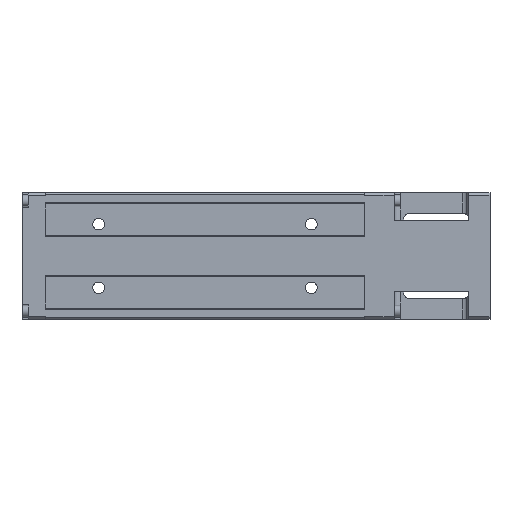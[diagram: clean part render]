
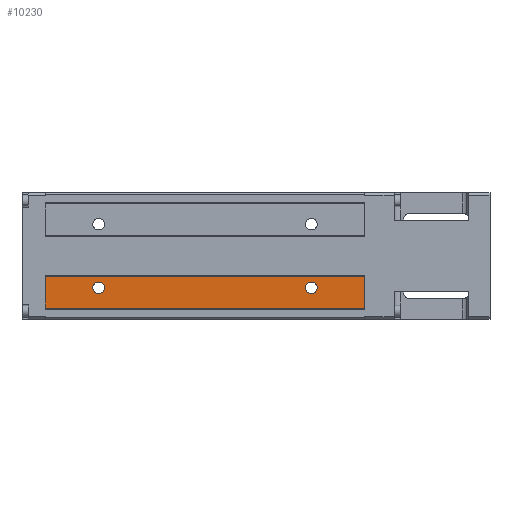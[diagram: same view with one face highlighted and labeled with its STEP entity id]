
A CAD part, front view. The second image highlights one B-rep face of the part: STEP entity #10230.
In plain terms, the highlighted planar face has unit normal (0, -1, 0).
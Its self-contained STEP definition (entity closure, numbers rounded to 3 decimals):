
#136 = ORIENTED_EDGE ( 'NONE', *, *, #6675, .T. ) ;
#404 = AXIS2_PLACEMENT_3D ( 'NONE', #9104, #14103, #4252 ) ;
#584 = CARTESIAN_POINT ( 'NONE',  ( -125., -23., -9.5 ) ) ;
#843 = VERTEX_POINT ( 'NONE', #8354 ) ;
#1141 = VECTOR ( 'NONE', #4765, 1000. ) ;
#1267 = DIRECTION ( 'NONE',  ( 0., 1., 0. ) ) ;
#1461 = VECTOR ( 'NONE', #11514, 1000. ) ;
#1627 = ORIENTED_EDGE ( 'NONE', *, *, #3649, .T. ) ;
#1797 = CIRCLE ( 'NONE', #14078, 2.75 ) ;
#2115 = CARTESIAN_POINT ( 'NONE',  ( -125., -23., -12.25 ) ) ;
#2122 = AXIS2_PLACEMENT_3D ( 'NONE', #3686, #1267, #13537 ) ;
#2505 = ORIENTED_EDGE ( 'NONE', *, *, #13547, .F. ) ;
#2608 = CARTESIAN_POINT ( 'NONE',  ( 25., -23., -24.5 ) ) ;
#2785 = CARTESIAN_POINT ( 'NONE',  ( -100., -23., -17.75 ) ) ;
#3188 = VERTEX_POINT ( 'NONE', #584 ) ;
#3239 = FACE_BOUND ( 'NONE', #10801, .T. ) ;
#3245 = VERTEX_POINT ( 'NONE', #11355 ) ;
#3345 = DIRECTION ( 'NONE',  ( 0., 0., 1. ) ) ;
#3584 = ORIENTED_EDGE ( 'NONE', *, *, #4682, .T. ) ;
#3649 = EDGE_CURVE ( 'NONE', #7870, #7947, #3654, .T. ) ;
#3654 = LINE ( 'NONE', #8594, #1141 ) ;
#3686 = CARTESIAN_POINT ( 'NONE',  ( 0., -23., -15. ) ) ;
#3692 = CIRCLE ( 'NONE', #404, 2.75 ) ;
#3854 = CIRCLE ( 'NONE', #2122, 2.75 ) ;
#3914 = CARTESIAN_POINT ( 'NONE',  ( -100., -23., -15. ) ) ;
#4019 = DIRECTION ( 'NONE',  ( 0., -1., 0. ) ) ;
#4252 = DIRECTION ( 'NONE',  ( 0., 0., -1. ) ) ;
#4682 = EDGE_CURVE ( 'NONE', #3245, #6480, #15131, .T. ) ;
#4700 = CARTESIAN_POINT ( 'NONE',  ( -125., -23., -24.5 ) ) ;
#4722 = VERTEX_POINT ( 'NONE', #2785 ) ;
#4765 = DIRECTION ( 'NONE',  ( 0., 0., 1. ) ) ;
#4891 = ORIENTED_EDGE ( 'NONE', *, *, #9142, .T. ) ;
#4995 = DIRECTION ( 'NONE',  ( 0., 1., 0. ) ) ;
#5121 = LINE ( 'NONE', #9000, #1461 ) ;
#5877 = CARTESIAN_POINT ( 'NONE',  ( 25., -23., -9.5 ) ) ;
#5939 = DIRECTION ( 'NONE',  ( 1., 0., 0. ) ) ;
#6480 = VERTEX_POINT ( 'NONE', #10509 ) ;
#6511 = ORIENTED_EDGE ( 'NONE', *, *, #7959, .F. ) ;
#6675 = EDGE_CURVE ( 'NONE', #9351, #7870, #15626, .T. ) ;
#7502 = AXIS2_PLACEMENT_3D ( 'NONE', #2608, #4019, #7782 ) ;
#7678 = PLANE ( 'NONE',  #7502 ) ;
#7706 = AXIS2_PLACEMENT_3D ( 'NONE', #14940, #9914, #13764 ) ;
#7782 = DIRECTION ( 'NONE',  ( -1., 0., 0. ) ) ;
#7870 = VERTEX_POINT ( 'NONE', #10593 ) ;
#7947 = VERTEX_POINT ( 'NONE', #5877 ) ;
#7959 = EDGE_CURVE ( 'NONE', #9351, #3188, #14617, .T. ) ;
#8240 = EDGE_LOOP ( 'NONE', ( #4891, #3584 ) ) ;
#8354 = CARTESIAN_POINT ( 'NONE',  ( -100., -23., -12.25 ) ) ;
#8594 = CARTESIAN_POINT ( 'NONE',  ( 25., -23., -24.5 ) ) ;
#8842 = DIRECTION ( 'NONE',  ( 0., 0., -1. ) ) ;
#9000 = CARTESIAN_POINT ( 'NONE',  ( -125., -23., -9.5 ) ) ;
#9104 = CARTESIAN_POINT ( 'NONE',  ( -100., -23., -15. ) ) ;
#9142 = EDGE_CURVE ( 'NONE', #6480, #3245, #3854, .T. ) ;
#9351 = VERTEX_POINT ( 'NONE', #13920 ) ;
#9914 = DIRECTION ( 'NONE',  ( 0., 1., 0. ) ) ;
#10083 = VECTOR ( 'NONE', #5939, 1000. ) ;
#10230 = ADVANCED_FACE ( 'NONE', ( #11089, #3239, #13376 ), #7678, .T. ) ;
#10509 = CARTESIAN_POINT ( 'NONE',  ( 0., -23., -17.75 ) ) ;
#10593 = CARTESIAN_POINT ( 'NONE',  ( 25., -23., -24.5 ) ) ;
#10801 = EDGE_LOOP ( 'NONE', ( #13355, #13550 ) ) ;
#11089 = FACE_OUTER_BOUND ( 'NONE', #14107, .T. ) ;
#11355 = CARTESIAN_POINT ( 'NONE',  ( 0., -23., -12.25 ) ) ;
#11514 = DIRECTION ( 'NONE',  ( 1., 0., 0. ) ) ;
#12497 = VECTOR ( 'NONE', #3345, 1000. ) ;
#13355 = ORIENTED_EDGE ( 'NONE', *, *, #15393, .T. ) ;
#13376 = FACE_BOUND ( 'NONE', #8240, .T. ) ;
#13537 = DIRECTION ( 'NONE',  ( 0., 0., -1. ) ) ;
#13547 = EDGE_CURVE ( 'NONE', #3188, #7947, #5121, .T. ) ;
#13550 = ORIENTED_EDGE ( 'NONE', *, *, #15149, .T. ) ;
#13764 = DIRECTION ( 'NONE',  ( 0., 0., -1. ) ) ;
#13920 = CARTESIAN_POINT ( 'NONE',  ( -125., -23., -24.5 ) ) ;
#14078 = AXIS2_PLACEMENT_3D ( 'NONE', #3914, #4995, #8842 ) ;
#14103 = DIRECTION ( 'NONE',  ( 0., 1., 0. ) ) ;
#14107 = EDGE_LOOP ( 'NONE', ( #6511, #136, #1627, #2505 ) ) ;
#14617 = LINE ( 'NONE', #2115, #12497 ) ;
#14940 = CARTESIAN_POINT ( 'NONE',  ( 0., -23., -15. ) ) ;
#15131 = CIRCLE ( 'NONE', #7706, 2.75 ) ;
#15149 = EDGE_CURVE ( 'NONE', #843, #4722, #1797, .T. ) ;
#15393 = EDGE_CURVE ( 'NONE', #4722, #843, #3692, .T. ) ;
#15626 = LINE ( 'NONE', #4700, #10083 ) ;
